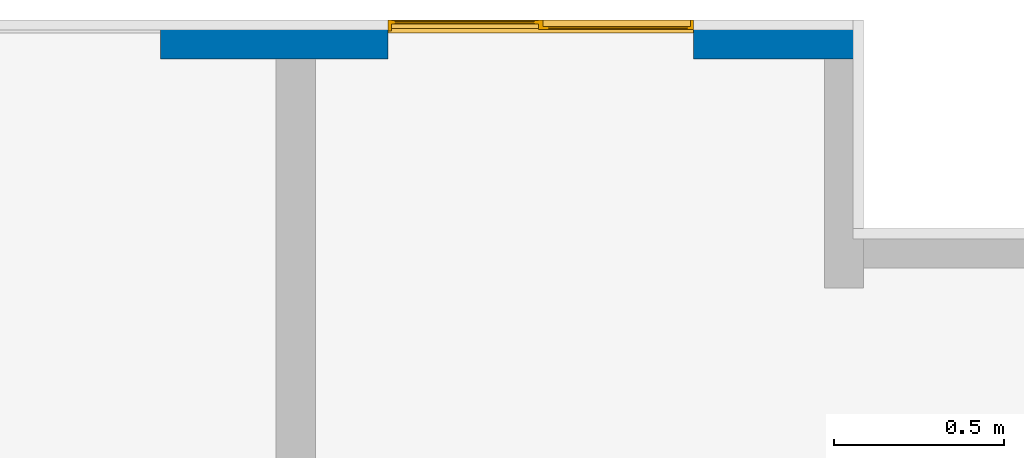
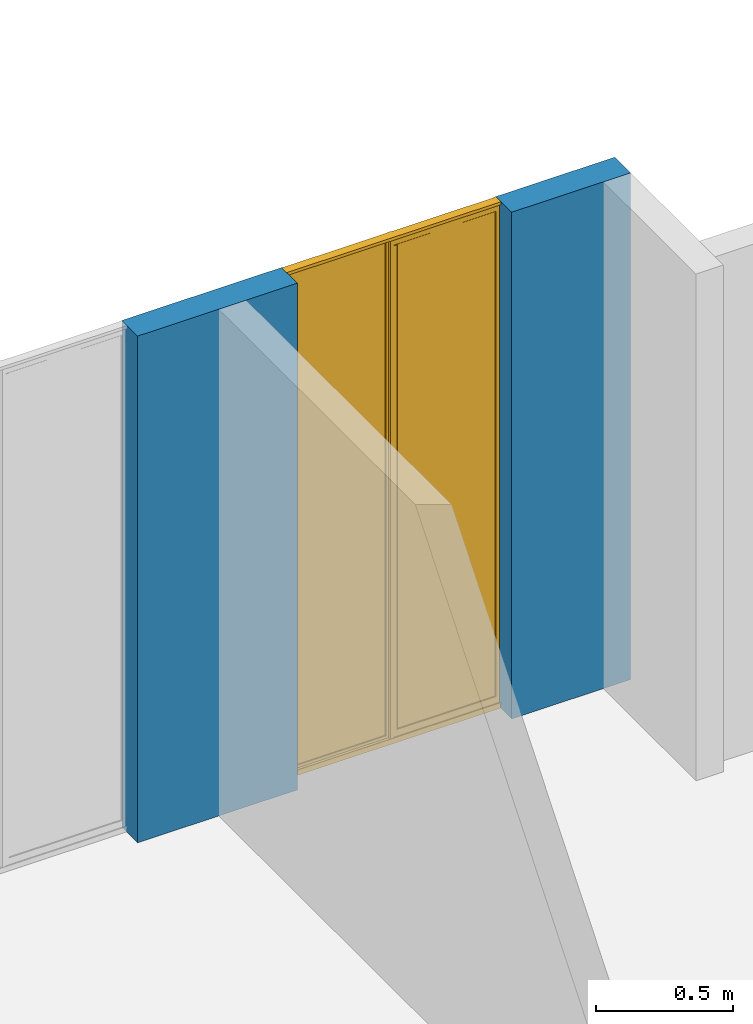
# One storey, part 17 of 48: 1 wall, 1 window, 2 openings.
"""IFC4 building model written with IfcOpenShell, lengths in metres."""

from ifc_helpers import new_model, entity, si_unit, converted_unit, derived_unit, direction, frame, origin, place, context, subcontext, project, spatial, indexed_curve, outline, extrude, polygons, source, transform, mapped, material, constituent, constituent_set, type_object, type_shapes, element, fill, save


model = new_model("IFC4")

# Units and contexts
model_context = context("Model", 3, precision=1e-05, world=origin(), true_north=direction((6.123031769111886e-17, 1.0)))
body_context = subcontext(model_context, "Body", "Model", "MODEL_VIEW")
ifc_project = project(units=[si_unit("LENGTHUNIT", "METRE"), si_unit("AREAUNIT", "SQUARE_METRE"), si_unit("VOLUMEUNIT", "CUBIC_METRE"), converted_unit("PLANEANGLEUNIT", "DEGREE", entity("IfcRatioMeasure", 0.017453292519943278), si_unit("PLANEANGLEUNIT", "RADIAN"), dimensions=[0, 0, 0, 0, 0, 0, 0]), si_unit("MASSUNIT", "GRAM", prefix="KILO"), derived_unit("MASSDENSITYUNIT", [(si_unit("MASSUNIT", "GRAM", prefix="KILO"), 1), (si_unit("LENGTHUNIT", "METRE"), -3)]), derived_unit("IONCONCENTRATIONUNIT", [(si_unit("MASSUNIT", "GRAM", prefix="KILO"), 1), (si_unit("LENGTHUNIT", "METRE"), -3)]), derived_unit("MOMENTOFINERTIAUNIT", [(si_unit("LENGTHUNIT", "METRE"), 4)]), si_unit("TIMEUNIT", "SECOND"), si_unit("FREQUENCYUNIT", "HERTZ"), si_unit("THERMODYNAMICTEMPERATUREUNIT", "DEGREE_CELSIUS"), derived_unit("THERMALTRANSMITTANCEUNIT", [(si_unit("MASSUNIT", "GRAM", prefix="KILO"), 1), (si_unit("THERMODYNAMICTEMPERATUREUNIT", "KELVIN"), -1), (si_unit("TIMEUNIT", "SECOND"), -3)]), derived_unit("THERMALCONDUCTANCEUNIT", [(si_unit("MASSUNIT", "GRAM", prefix="KILO"), 1), (si_unit("THERMODYNAMICTEMPERATUREUNIT", "KELVIN"), -1), (si_unit("TIMEUNIT", "SECOND"), -3), (si_unit("LENGTHUNIT", "METRE"), 1)]), derived_unit("VOLUMETRICFLOWRATEUNIT", [(si_unit("LENGTHUNIT", "METRE"), 3), (si_unit("TIMEUNIT", "SECOND"), -1)]), derived_unit("MASSFLOWRATEUNIT", [(si_unit("MASSUNIT", "GRAM", prefix="KILO"), 1), (si_unit("TIMEUNIT", "SECOND"), -1)]), derived_unit("ROTATIONALFREQUENCYUNIT", [(si_unit("TIMEUNIT", "SECOND"), -1)]), si_unit("ELECTRICCURRENTUNIT", "AMPERE"), si_unit("ELECTRICVOLTAGEUNIT", "VOLT"), si_unit("POWERUNIT", "WATT"), si_unit("FORCEUNIT", "NEWTON", prefix="KILO"), si_unit("ILLUMINANCEUNIT", "LUX"), si_unit("LUMINOUSFLUXUNIT", "LUMEN"), si_unit("LUMINOUSINTENSITYUNIT", "CANDELA"), derived_unit("USERDEFINED", [(si_unit("MASSUNIT", "GRAM", prefix="KILO"), -1), (si_unit("LENGTHUNIT", "METRE"), -2), (si_unit("TIMEUNIT", "SECOND"), 3), (si_unit("LUMINOUSFLUXUNIT", "LUMEN"), 1)]), derived_unit("USERDEFINED", [(si_unit("MASSUNIT", "GRAM", prefix="KILO"), 1), (si_unit("TIMEUNIT", "SECOND"), -3), (si_unit("LENGTHUNIT", "METRE"), 3), (si_unit("ELECTRICCURRENTUNIT", "AMPERE"), -2)]), derived_unit("SOUNDPOWERUNIT", [(si_unit("MASSUNIT", "GRAM", prefix="KILO"), 1), (si_unit("TIMEUNIT", "SECOND"), -3), (si_unit("LENGTHUNIT", "METRE"), 2)]), derived_unit("SOUNDPRESSUREUNIT", [(si_unit("MASSUNIT", "GRAM", prefix="KILO"), 1), (si_unit("LENGTHUNIT", "METRE"), -1), (si_unit("TIMEUNIT", "SECOND"), -2)]), derived_unit("LINEARVELOCITYUNIT", [(si_unit("LENGTHUNIT", "METRE"), 1), (si_unit("TIMEUNIT", "SECOND"), -1)]), si_unit("PRESSUREUNIT", "PASCAL"), derived_unit("USERDEFINED", [(si_unit("MASSUNIT", "GRAM", prefix="KILO"), 1), (si_unit("LENGTHUNIT", "METRE"), -2), (si_unit("TIMEUNIT", "SECOND"), -2)]), derived_unit("LINEARFORCEUNIT", [(si_unit("MASSUNIT", "GRAM", prefix="KILO"), 1), (si_unit("TIMEUNIT", "SECOND"), -2)]), derived_unit("PLANARFORCEUNIT", [(si_unit("MASSUNIT", "GRAM", prefix="KILO"), 1), (si_unit("LENGTHUNIT", "METRE"), -1), (si_unit("TIMEUNIT", "SECOND"), -2)]), derived_unit("SPECIFICHEATCAPACITYUNIT", [(si_unit("THERMODYNAMICTEMPERATUREUNIT", "KELVIN"), -1), (si_unit("LENGTHUNIT", "METRE"), 2), (si_unit("TIMEUNIT", "SECOND"), -2)]), derived_unit("HEATINGVALUEUNIT", [(si_unit("LENGTHUNIT", "METRE"), 2), (si_unit("TIMEUNIT", "SECOND"), -2)]), derived_unit("VAPORPERMEABILITYUNIT", [(si_unit("LENGTHUNIT", "METRE"), -1), (si_unit("TIMEUNIT", "SECOND"), 1)]), derived_unit("DYNAMICVISCOSITYUNIT", [(si_unit("MASSUNIT", "GRAM", prefix="KILO"), 1), (si_unit("TIMEUNIT", "SECOND"), -1), (si_unit("LENGTHUNIT", "METRE"), -1)]), derived_unit("THERMALEXPANSIONCOEFFICIENTUNIT", [(si_unit("THERMODYNAMICTEMPERATUREUNIT", "KELVIN"), -1)]), derived_unit("MODULUSOFELASTICITYUNIT", [(si_unit("MASSUNIT", "GRAM", prefix="KILO"), 1), (si_unit("LENGTHUNIT", "METRE"), -1), (si_unit("TIMEUNIT", "SECOND"), -2)]), derived_unit("ISOTHERMALMOISTURECAPACITYUNIT", [(si_unit("LENGTHUNIT", "METRE"), 3), (si_unit("MASSUNIT", "GRAM", prefix="KILO"), -1)]), derived_unit("MOISTUREDIFFUSIVITYUNIT", [(si_unit("TIMEUNIT", "SECOND"), -1), (si_unit("LENGTHUNIT", "METRE"), 2)])], contexts=[model_context])

# Site, building, storey
site_placement = place(None, origin())
site = spatial("IfcSite", under=ifc_project, at=site_placement, Name="Default", CompositionType="ELEMENT")
building_placement = place(site_placement, origin())
building = spatial("IfcBuilding", under=site, at=building_placement, CompositionType="ELEMENT")
storey_placement = place(building_placement, frame((0.0, 0.0, 9.40000000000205)))
storey = spatial("IfcBuildingStorey", under=building, at=storey_placement, Name="Nivel 5", CompositionType="ELEMENT", Elevation=9.40000000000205)

# Wall, openings, window
ifc_material_1 = material(Name="Ladrillo claro (Aire)", Category="Materials")
wall_type = type_object("IfcWallType", Name="Basic Wall:B2010 - 0.115m - Muro exterior en mampostería - Ladrillo", PredefinedType="STANDARD")
wall_placement = place(storey_placement, frame((6.182499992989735, -0.037500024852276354, 0.0), z_axis=(0.0, 0.0, 1.0), x_axis=(-1.0, 0.0, 0.0)))
wall = element("IfcWall", 1, at=wall_placement, inside=storey, type_object=wall_type, material=ifc_material_1, Name="Basic Wall:B2010 - 0.115m - Muro exterior en mampostería - Ladrillo", ObjectType="Basic Wall:B2010 - 0.115m - Muro exterior en mampostería - Ladrillo", PredefinedType="NOTDEFINED", context=body_context, shape_type="Tessellation", body=[
    polygons([(1.8132921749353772e-17, -0.05750000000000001, 2.250000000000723), (1.1010000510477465e-15, -0.05750000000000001, -1.0828671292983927e-15), (0.5000000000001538, -0.05750000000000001, -1.0828671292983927e-15), (0.5000000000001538, -0.05750000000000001, 2.250000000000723), (2.079602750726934e-15, 0.05749999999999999, -1.0828671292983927e-15), (0.11500000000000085, 0.05749999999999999, -1.0828671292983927e-15), (0.5000000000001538, 0.05749999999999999, -1.0828671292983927e-15), (9.967356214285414e-16, 0.05749999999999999, 2.250000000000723), (0.5000000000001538, 0.05749999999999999, 2.250000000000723), (0.11500000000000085, 0.05749999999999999, 2.250000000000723)], [[[1, 2, 3, 4]], [[2, 5, 6, 7, 3]], [[2, 1, 8, 5]], [[4, 3, 7, 9]], [[8, 1, 4, 9, 10]], [[5, 8, 10, 9, 7, 6]]], closed=True),
    polygons([(1.4000000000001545, 0.05749999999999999, -1.0828671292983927e-15), (1.4000000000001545, 0.05749999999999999, 2.250000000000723), (1.6149999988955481, 0.0575, 2.250000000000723), (1.729999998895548, 0.05749999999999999, 2.250000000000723), (2.0707999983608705, 0.05749999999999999, 2.250000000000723), (2.0707999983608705, 0.05749999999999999, -1.0828671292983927e-15), (1.729999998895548, 0.05749999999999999, -1.0828671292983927e-15), (1.6149999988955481, 0.0575, -1.0828671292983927e-15), (1.4000000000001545, -0.05750000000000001, 2.250000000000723), (2.0707999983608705, -0.05750000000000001, 2.250000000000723), (2.0707999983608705, -0.05750000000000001, -1.0828671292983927e-15), (1.4000000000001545, -0.05750000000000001, -1.0828671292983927e-15)], [[[1, 2, 3, 4, 5, 6, 7, 8]], [[2, 9, 10, 5, 4, 3]], [[10, 11, 6, 5]], [[12, 9, 2, 1]], [[12, 1, 8, 7, 6, 11]], [[9, 12, 11, 10]]], closed=True),
])
opening_1_placement = place(wall_placement, frame((0.5000000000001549, -0.05750000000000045, 0.0)))
opening_1 = element("IfcOpeningElement", 2, at=opening_1_placement, cuts=wall, Name="B2020 - Ventana corrediza 2C - Aluminio + Vidrio:B2020 - 0.90m x 2.25m - Ventana corrediza 2C - Aluminio + Vidrio:1", PredefinedType="OPENING", context=body_context, shape_type="SweptSolid", body=[
    extrude(outline(indexed_curve([(0.0, 0.9), (0.0, 0.0), (2.2499999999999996, 0.0), (2.249999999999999, 0.9), (0.0, 0.9)], self_intersect=False)), frame((0.0, 0.0, 0.0), z_axis=(0.0, 1.0, 0.0), x_axis=(0.0, 0.0, 1.0)), (0.0, 0.0, 1.0), 0.115),
])
opening_2_placement = place(wall_placement, frame((2.0707999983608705, -0.0575000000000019, 0.0)))
element("IfcOpeningElement", 3, at=opening_2_placement, cuts=wall, Name="B2020 - Ventana corrediza 2C - Aluminio + Vidrio:B2020 - 1.02m x 2.25m - Ventana corrediza 2C - Aluminio + Vidrio:1", PredefinedType="OPENING", context=body_context, shape_type="SweptSolid", body=[
    extrude(outline(indexed_curve([(0.0, 1.0199999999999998), (0.0, -7.67014426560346e-33), (2.2499999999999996, -7.67014426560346e-33), (2.249999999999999, 1.0199999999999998), (0.0, 1.0199999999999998)], self_intersect=False)), frame((0.0, 0.0, 0.0), z_axis=(0.0, 1.0, 0.0), x_axis=(0.0, 0.0, 1.0)), (0.0, 0.0, 1.0), 0.115),
])
ifc_material_2 = material(Name="Vidrio", Category="Materials")
ifc_constituent_1 = constituent(ifc_material_2, Name="Vidrio", Category="Materials")
ifc_material_3 = material(Name="<Unnamed>")
ifc_constituent_2 = constituent(ifc_material_3, Name="<Unnamed>")
ifc_constituent_set_1 = constituent_set(constituents=[ifc_constituent_1, ifc_constituent_2])
ifc_constituent_3 = constituent(ifc_material_2, Name="Vidrio", Category="Materials")
ifc_constituent_4 = constituent(ifc_material_3, Name="<Unnamed>")
ifc_constituent_set_2 = constituent_set(constituents=[ifc_constituent_3, ifc_constituent_4])
window_type = type_object("IfcWindowType", Name="B2020 - Ventana corrediza 2C - Aluminio + Vidrio:B2020 - 0.90m x 2.25m - Ventana corrediza 2C - Aluminio + Vidrio", PartitioningType="NOTDEFINED", PredefinedType="WINDOW", material=ifc_constituent_set_2)
shared_shape = source(origin(), body_context, "Body", "Tessellation", [
    polygons([(0.4298128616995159, 0.11062877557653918, 0.028641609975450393), (0.4298128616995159, 0.10552744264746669, 0.028641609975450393), (0.019967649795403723, 0.10552744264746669, 0.028641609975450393), (0.019967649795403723, 0.11062877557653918, 0.028641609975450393), (0.4298128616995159, 0.11062877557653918, 2.2347073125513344), (0.4298128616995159, 0.10552744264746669, 2.2347073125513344), (0.019967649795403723, 0.10552744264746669, 2.2347073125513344), (0.019967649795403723, 0.11062877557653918, 2.2347073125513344)], [[[1, 2, 3, 4]], [[5, 6, 2, 1]], [[6, 7, 3, 2]], [[7, 8, 4, 3]], [[8, 5, 1, 4]], [[5, 8, 7, 6]]], closed=True),
    polygons([(0.8811536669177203, 0.09380899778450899, 0.054189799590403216), (0.8811536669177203, 0.0895130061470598, 0.054189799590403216), (0.47172894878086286, 0.0895130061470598, 0.054189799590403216), (0.47172894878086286, 0.09380899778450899, 0.054189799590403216), (0.8811536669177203, 0.09380899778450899, 2.2043993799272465), (0.8811536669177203, 0.0895130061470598, 2.2043993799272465), (0.47172894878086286, 0.0895130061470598, 2.2043993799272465), (0.47172894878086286, 0.09380899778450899, 2.2043993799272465)], [[[1, 2, 3, 4]], [[5, 6, 2, 1]], [[6, 7, 3, 2]], [[7, 8, 4, 3]], [[8, 5, 1, 4]], [[5, 8, 7, 6]]], closed=True),
    polygons([(0.9, 0.07999999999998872, 0.020380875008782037), (0.9, 0.07999999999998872, -2.5718094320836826e-15), (0.9000000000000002, 0.1149999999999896, -2.5718094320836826e-15), (0.9, 0.1150000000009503, 2.2499999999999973), (0.9000000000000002, 0.07720993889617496, 2.2499999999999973), (0.9000000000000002, 0.07720993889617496, 2.2365872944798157), (0.9000000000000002, 0.07857307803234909, 2.2365872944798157), (0.9000000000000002, 0.07857307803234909, 2.24863686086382), (0.9, 0.08683610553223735, 2.24863686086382), (0.9, 0.08683610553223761, 0.017447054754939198), (0.9, 0.08124999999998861, 0.017447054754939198), (0.9, 0.08124999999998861, 0.02163087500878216), (0.9, 0.078577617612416, 0.02163087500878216), (0.9, 0.078577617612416, 0.025674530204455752), (0.9, 0.077327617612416, 0.025674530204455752), (0.9, 0.077327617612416, 0.020380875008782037), (1.353583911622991e-16, 0.07999999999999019, 0.020380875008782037), (1.353583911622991e-16, 0.07999999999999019, -2.5718094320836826e-15), (2.0303758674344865e-16, 0.11499999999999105, -2.5718094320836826e-15), (0.44335450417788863, 0.1149999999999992, 2.2499999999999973), (0.45664549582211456, 0.11499999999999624, 2.2499999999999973), (0.45664549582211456, 0.1149999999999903, 0.006176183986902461), (0.8901022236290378, 0.1149999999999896, 0.006176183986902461), (0.890102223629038, 0.1150000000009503, 2.2499999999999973), (1.353583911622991e-16, 0.1150000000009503, 2.2499999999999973), (0.009999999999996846, 0.11500000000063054, 2.2499999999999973), (0.009999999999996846, 0.11499999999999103, 0.006176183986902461), (0.44335450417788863, 0.11499999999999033, 0.006176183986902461), (0.883701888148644, 0.08683610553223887, 2.2069861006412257), (0.8837018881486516, 0.08683610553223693, 0.0519155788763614), (0.46918072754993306, 0.08683610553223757, 0.0519155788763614), (0.46918072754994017, 0.08683610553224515, 2.2043993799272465), (0.45664549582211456, 0.08683610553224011, 2.2043993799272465), (0.45664549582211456, 0.08683610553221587, 2.2069861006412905), (0.8837018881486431, 0.08683610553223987, 2.237270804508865), (0.45664549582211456, 0.08683610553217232, 2.237270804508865), (0.45664549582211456, 0.08683610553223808, 2.24863686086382), (0.4419528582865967, 0.08683610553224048, 2.24863686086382), (0.4419528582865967, 0.08683610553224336, 0.01744705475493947), (0.45664549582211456, 0.08683610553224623, 0.017447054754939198), (0.45664549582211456, 0.08683610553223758, 0.021630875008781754), (0.8962371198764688, 0.08683610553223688, 0.02163087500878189), (0.8962371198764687, 0.08683610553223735, 0.01744705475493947), (0.8837018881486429, 0.08683610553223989, 2.24863686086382), (1.353583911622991e-16, 0.08124999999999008, 0.017447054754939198), (0.8962371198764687, 0.09036136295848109, 0.017447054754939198), (0.45664549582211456, 0.09036136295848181, 0.017447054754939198), (0.4419528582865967, 0.09036136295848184, 0.017447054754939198), (0.009999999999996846, 0.09036136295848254, 0.017447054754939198), (0.009999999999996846, 0.08300000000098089, 0.017447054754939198), (2.0303758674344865e-16, 0.08300000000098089, 0.017447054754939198), (1.353583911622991e-16, 0.08124999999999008, 0.02163087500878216), (1.353583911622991e-16, 0.07857761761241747, 0.02163087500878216), (1.353583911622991e-16, 0.07857761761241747, 0.025674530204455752), (1.353583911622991e-16, 0.07732761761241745, 0.025674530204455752), (1.353583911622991e-16, 0.07732761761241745, 0.020380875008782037), (0.8811570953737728, 0.09380711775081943, 0.054191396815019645), (0.8837018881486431, 0.09648589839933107, 0.051915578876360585), (0.4691807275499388, 0.09648589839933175, 0.051915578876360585), (0.47172276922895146, 0.09380452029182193, 0.054191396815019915), (0.8837018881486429, 0.09648589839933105, 2.237270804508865), (0.8811536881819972, 0.09378706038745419, 2.237270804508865), (0.8811536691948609, 0.09378696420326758, 2.24863686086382), (0.8837018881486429, 0.09648589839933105, 2.24863686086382), (0.8837018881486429, 0.096485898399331, 2.2069861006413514), (0.45664549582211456, 0.09648589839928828, 2.2069861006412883), (0.45664549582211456, 0.09648589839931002, 2.237270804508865), (0.890102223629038, 0.09648589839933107, 2.24863686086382), (0.8901022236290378, 0.09648589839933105, 0.021630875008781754), (0.45664549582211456, 0.09648589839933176, 0.02163087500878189), (0.45664549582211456, 0.0964858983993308, 2.2043993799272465), (0.46918072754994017, 0.0964858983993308, 2.2043993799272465), (0.47172894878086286, 0.09379974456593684, 2.2043993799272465), (0.881159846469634, 0.08951748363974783, 0.05419139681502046), (0.47172552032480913, 0.08951488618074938, 0.054191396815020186), (0.8811537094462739, 0.08953496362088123, 2.237270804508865), (0.8811536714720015, 0.08953504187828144, 2.24863686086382), (0.47172894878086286, 0.08952215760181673, 2.204399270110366), (0.4419528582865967, 0.10334183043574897, 2.24863686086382), (0.4419528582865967, 0.10334183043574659, 0.014402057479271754), (0.4419528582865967, 0.09363692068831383, 0.014402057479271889), (0.4419528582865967, 0.09363692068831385, 0.010600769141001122), (0.4419528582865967, 0.09036136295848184, 0.011279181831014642), (0.45664549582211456, 0.11281438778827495, 2.2499999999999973), (0.45664549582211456, 0.11281438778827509, 2.2369062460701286), (0.45664549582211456, 0.11061545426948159, 2.2347073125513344), (0.45664549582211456, 0.10554076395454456, 2.2347073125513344), (0.45664549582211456, 0.10334183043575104, 2.2369062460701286), (0.45664549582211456, 0.10334183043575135, 2.24863686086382), (0.45664549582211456, 0.09380888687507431, 2.204399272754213), (0.45664549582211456, 0.09036136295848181, 0.011279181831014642), (0.8962371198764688, 0.09648589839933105, 0.02163087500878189), (0.8962371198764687, 0.09648589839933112, 0.010010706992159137), (0.8962371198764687, 0.09036136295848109, 0.011279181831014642), (0.890102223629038, 0.09648589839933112, 0.010010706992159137), (0.8901022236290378, 0.10334183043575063, 2.24863686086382), (0.890102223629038, 0.10334183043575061, 2.2369062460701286), (0.8901022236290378, 0.10554076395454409, 2.234707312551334), (0.8901022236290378, 0.11061545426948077, 2.234707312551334), (0.8901022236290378, 0.11281438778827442, 2.2369062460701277), (0.8901022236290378, 0.11281438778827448, 2.2499999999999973), (1.353583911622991e-16, 0.08300000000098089, 2.24863686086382), (1.353583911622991e-16, 0.07857307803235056, 2.24863686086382), (1.353583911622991e-16, 0.07857307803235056, 2.2365872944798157), (1.353583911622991e-16, 0.07720993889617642, 2.2365872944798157), (2.0303758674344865e-16, 0.07720993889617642, 2.2499999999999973), (0.009999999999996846, 0.08300000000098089, 2.24863686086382), (0.009999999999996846, 0.09036136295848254, 0.011279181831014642), (0.009999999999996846, 0.09363692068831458, 0.010600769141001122), (0.009999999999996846, 0.09363692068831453, 0.014402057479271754), (0.009999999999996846, 0.10334183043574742, 0.014402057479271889), (0.009999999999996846, 0.10334183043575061, 2.24863686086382), (0.44335450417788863, 0.11281438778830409, 0.006628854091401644), (0.44335450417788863, 0.112814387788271, 2.2499999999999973), (0.009999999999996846, 0.11281438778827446, 2.2499999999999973), (0.009999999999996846, 0.11281438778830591, 0.0066288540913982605), (0.4323610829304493, 0.11281438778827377, 0.026824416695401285), (0.42981286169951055, 0.1106287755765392, 0.028641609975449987), (0.4298128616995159, 0.1106287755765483, 2.2347139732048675), (0.43236108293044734, 0.112814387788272, 2.236906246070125), (0.01996764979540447, 0.11062877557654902, 0.028641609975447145), (0.01741942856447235, 0.11281438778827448, 0.026824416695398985), (0.01741942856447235, 0.11281438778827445, 2.236906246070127), (0.019967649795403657, 0.11062877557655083, 2.2347139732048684), (0.019967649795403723, 0.10552744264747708, 0.028641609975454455), (0.01741942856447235, 0.10334183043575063, 0.026824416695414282), (0.43236108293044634, 0.10334183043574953, 0.02682441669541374), (0.4298128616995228, 0.10552744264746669, 0.028641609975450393), (0.01996880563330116, 0.10553009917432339, 2.234711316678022), (0.017419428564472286, 0.10334183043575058, 2.2369062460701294), (0.432361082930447, 0.10334183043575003, 2.2369062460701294), (0.4298117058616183, 0.10553009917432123, 2.234711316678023), (0.8811537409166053, 0.09378737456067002, 2.2043889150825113), (0.8811555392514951, 0.08953032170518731, 2.2043931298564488), (0.45664549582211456, 0.08951317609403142, 2.204399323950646)], [[[1, 2, 3, 4, 5, 6, 7, 8, 9, 10, 11, 12, 13, 14, 15, 16]], [[17, 18, 2, 1]], [[2, 18, 19, 3]], [[20, 21, 22, 23, 24, 4, 3, 19, 25, 26, 27, 28]], [[35, 36, 37, 38, 39, 40, 41, 42, 43, 10, 9, 44], [29, 30, 31, 32, 33, 34]], [[45, 11, 10, 43, 46, 47, 40, 39, 48, 49, 50, 51]], [[45, 52, 12, 11]], [[52, 53, 13, 12]], [[53, 54, 14, 13]], [[54, 55, 15, 14]], [[55, 56, 16, 15]], [[56, 17, 1, 16]], [[57, 58, 59, 60]], [[61, 62, 63, 64]], [[58, 65, 66, 67, 61, 64, 68, 69, 70, 71, 72, 59]], [[72, 73, 60, 59]], [[74, 57, 60, 75]], [[62, 76, 77, 63]], [[60, 73, 78, 75]], [[30, 74, 75, 31]], [[76, 35, 44, 77]], [[78, 32, 31, 75]], [[48, 39, 38, 79, 80, 81, 82, 83]], [[22, 21, 84, 85, 86, 87, 88, 89, 37, 36, 67, 66, 90, 71, 70, 41, 40, 47, 91]], [[41, 70, 69, 92, 42]], [[92, 93, 94, 46, 43, 42]], [[69, 95, 93, 92]], [[24, 23, 95, 69, 68, 96, 97, 98, 99, 100, 101]], [[17, 56, 55, 54, 53, 52, 45, 51, 102, 103, 104, 105, 106, 25, 19, 18]], [[51, 50, 107, 102]], [[48, 83, 108, 49]], [[50, 49, 108, 109, 110, 111, 112, 107]], [[83, 82, 109, 108]], [[113, 114, 20, 28]], [[26, 115, 116, 27]], [[84, 101, 100, 85]], [[82, 81, 110, 109]], [[117, 118, 119, 120]], [[121, 122, 123, 124]], [[122, 121, 118, 117]], [[125, 126, 127, 128]], [[88, 97, 96, 89]], [[126, 125, 129, 130]], [[128, 127, 131, 132]], [[81, 80, 111, 110]], [[125, 121, 124, 129]], [[121, 125, 128, 118]], [[118, 128, 132, 119]], [[5, 4, 24, 101, 84, 21, 20, 114, 115, 26, 25, 106]], [[65, 133, 73, 90, 66]], [[133, 134, 78, 73]], [[134, 29, 34, 135, 78]], [[76, 62, 61, 67, 36, 35]], [[33, 32, 78, 135]], [[104, 103, 8, 7]], [[105, 104, 7, 6]], [[106, 105, 6, 5]], [[123, 120, 119, 124]], [[132, 129, 124, 119]], [[131, 130, 129, 132]], [[8, 103, 102, 107, 112, 79, 38, 37, 89, 96, 68, 64, 63, 77, 44, 9]], [[87, 98, 97, 88]], [[86, 99, 98, 87]], [[85, 100, 99, 86]], [[73, 72, 71, 90]], [[111, 80, 79, 112], [127, 126, 130, 131]], [[115, 114, 113, 116], [117, 120, 123, 122]], [[113, 28, 27, 116]], [[22, 91, 94, 93, 95, 23]], [[91, 47, 46, 94]], [[135, 34, 33]], [[74, 30, 29, 134]], [[57, 74, 134, 133]], [[58, 57, 133, 65]]], closed=True),
])
type_shapes(window_type, [shared_shape])
window_placement = place(opening_1_placement, frame((0.9000000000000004, 0.11499999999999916, 0.0), z_axis=(0.0, 0.0, 1.0), x_axis=(-1.0, 0.0, 0.0)))
window = element("IfcWindow", 4, at=window_placement, inside=storey, type_object=window_type, material=ifc_constituent_set_1, Name="B2020 - Ventana corrediza 2C - Aluminio + Vidrio:B2020 - 0.90m x 2.25m - Ventana corrediza 2C - Aluminio + Vidrio", ObjectType="B2020 - Ventana corrediza 2C - Aluminio + Vidrio:B2020 - 0.90m x 2.25m - Ventana corrediza 2C - Aluminio + Vidrio", OverallHeight=2.2499999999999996, OverallWidth=0.9, PartitioningType="NOTDEFINED", PredefinedType="WINDOW", context=body_context, shape_type="MappedRepresentation", body=[
    mapped(shared_shape, transform((0.0, 0.0, 0.0), scale=1.0)),
])
fill(opening_1, window)

save(model, "model.ifc")
